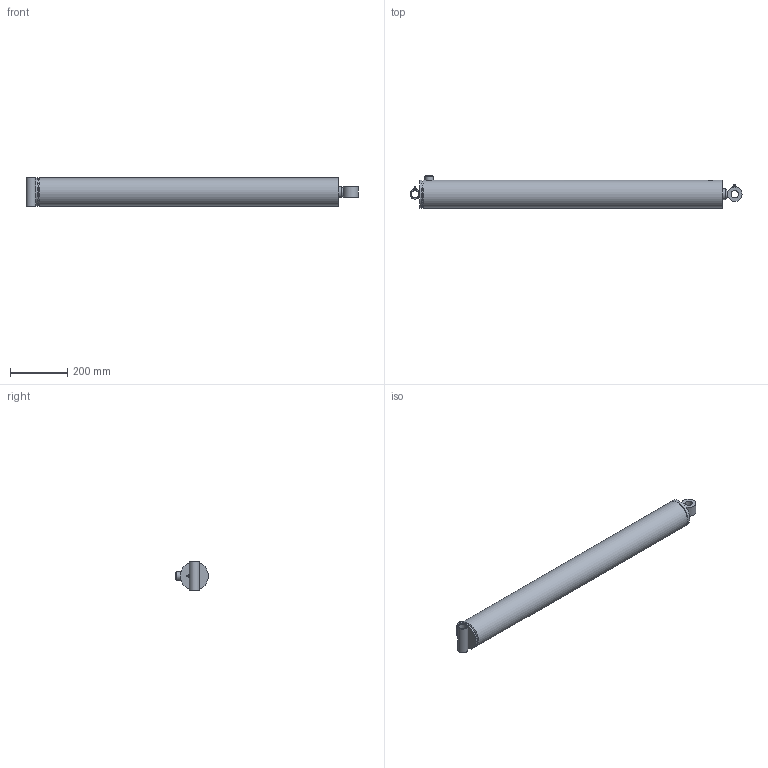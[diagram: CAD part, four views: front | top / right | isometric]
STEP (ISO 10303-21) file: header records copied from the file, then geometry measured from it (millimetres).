
FILE_DESCRIPTION((''),'2;1');
FILE_NAME('C:\Vault\Workspace\Vest\PMC-5536.stp','2009-07-20T07:42:23',('newtonb'),(''),'Autodesk Inventor 2008','Autodesk Inventor 2008','');
FILE_SCHEMA(('AUTOMOTIVE_DESIGN { 1 0 10303 214 1 1 1 1 }'));
Length unit declared in the file: inch
Products named in the file (23): PMC-5536V; 061700032V; 051700047V; 161700005V; 200014404V; 210400024V; 020800264V; 010800795V; 210400528V; 071700016V; 081700326V; 220000210V; 240004007V; 240063338V; 240000338V; 240000022V; 240061338V; 240020059V; 230001350V; 200018003V; 270010002V; 270010020V; 250001222V
Assembly tree (25 placements, depth 3):
  PMC-5536V
    061700032V
      051700047V
      161700005V
      200014404V
      210400024V
    020800264V
      010800795V
      210400528V
    071700016V
    081700326V
    220000210V
    240004007V
    240063338V  x2
    240000338V  x2
    240000022V
    240061338V
    240020059V
    230001350V
    200018003V  x2
    270010002V
    270010020V
    250001222V
Bounding box: 1160.46 x 114.3 x 101.6 mm (x, y, z)
Volume: 3329786.4 mm3; surface area: 916293.1 mm2
Topology: 23 solids, 23 shells, 257 faces, 526 edges, 319 vertices
Faces by surface type: plane 114, cylinder 62, cone 35, torus 23, bspline 21, sphere 2
Full cylindrical faces by diameter (mm): 1.143 x2, 1.524 x2, 3.175 x2, 6.074 x1, 8.839 x1, 9.08 x1, 12.7 x1, 23.813 x1, 25.349 x1, 25.476 x1, 25.908 x1, 26.162 x1, 27.965 x1, 28.575 x1, 34.925 x1, 38.1 x2, 38.176 x2, 39.052 x1, 41.91 x1, 46.025 x2, 46.673 x1, 47.625 x1, 50.8 x1, 53.975 x1, 69.342 x1, 79.375 x2, 79.451 x1, 80.01 x1, 80.061 x1, 80.264 x1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
Entity records: 7289 total; most frequent: CARTESIAN_POINT 2211, DIRECTION 1006, ORIENTED_EDGE 680, AXIS2_PLACEMENT_3D 456, EDGE_LOOP 406, EDGE_CURVE 340, VERTEX_POINT 274, FACE_OUTER_BOUND 234
